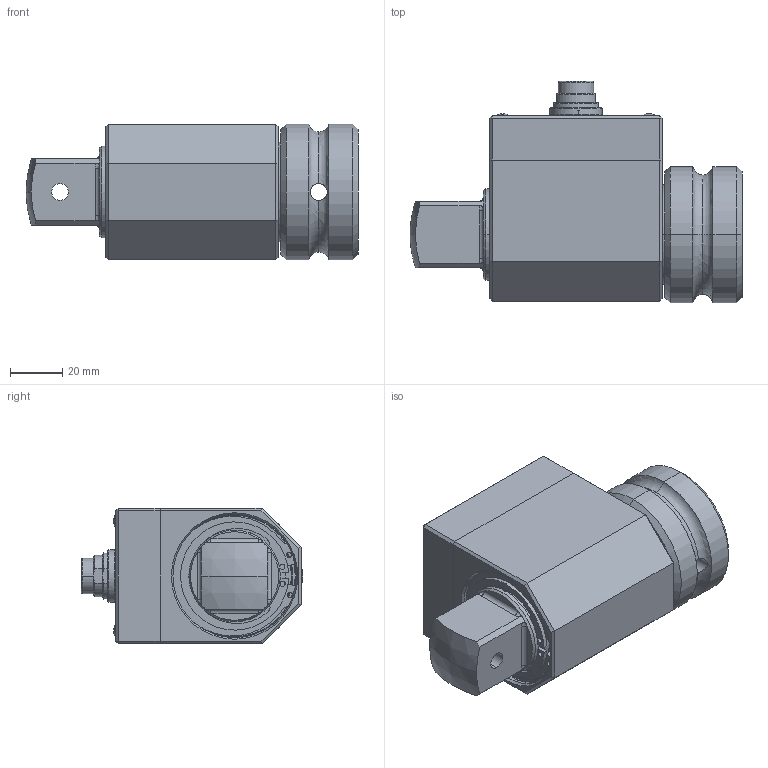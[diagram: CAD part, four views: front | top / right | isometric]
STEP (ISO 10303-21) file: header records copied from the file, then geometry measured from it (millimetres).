
FILE_DESCRIPTION (( 'STEP AP203' ), '1' );
FILE_NAME ('DRFN-1.STEP', '2014-05-13T08:43:29', ( 'nsi' ), ( '' ), 'SwSTEP 2.0', 'SolidWorks 2014', '' );
FILE_SCHEMA (( 'CONFIG_CONTROL_DESIGN' ));
Length unit declared in the file: millimetre
Products named in the file (1): DRFN-1
Bounding box: 127 x 84.6 x 52 mm (x, y, z)
Surface area: 43185.6 mm2 (no closed solid volume)
Topology: 0 solids, 18 shells, 311 faces, 868 edges, 571 vertices
Faces by surface type: plane 122, cylinder 77, cone 53, torus 45, bspline 8, sphere 6
Entity records: 10711 total; most frequent: CARTESIAN_POINT 2525, DIRECTION 1846, ORIENTED_EDGE 1502, EDGE_CURVE 868, AXIS2_PLACEMENT_3D 745, VERTEX_POINT 571, CIRCLE 441, EDGE_LOOP 359
